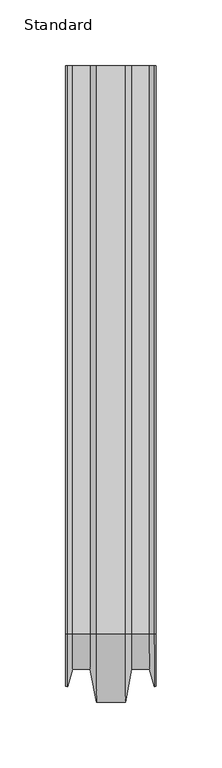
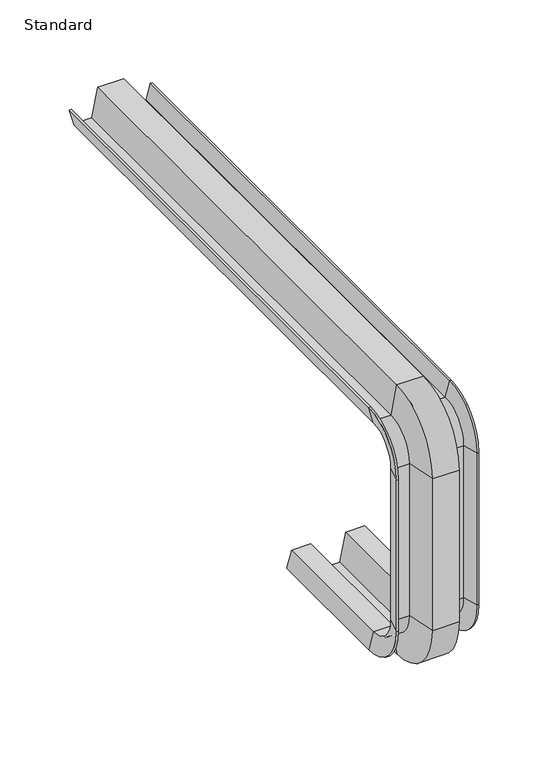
"""IFC4 building model written with IfcOpenShell, lengths in millimetres: electric appliance geometry, Bracket-C-Cablofil-Fas_Profile : Standard."""

from ifc_helpers import new_model, si_unit, frame, origin, place, context, project, spatial, polyline, circle_curve, source, transform, mapped, element, save
from ifc_brep_helpers import plane_surface, cylinder_surface, revolved_surface, advanced_brep


def standard_7210bdc4(model_context):
    return source(origin(), model_context, "Body", "AdvancedBrep", [
        advanced_brep(
        [(-29.35, -71.882, -185.258), (-32.9137243, -71.882, -198.558), (-34.362613, -71.882, -198.1697714), (-30.5009905, -71.882, -183.758), (-14.5100327, -71.882, -183.758), (-9.7600327, -71.882, -208.558), (9.7600327, -71.882, -208.558), (14.5100327, -71.882, -183.758), (30.5009905, -71.882, -183.758), (34.362613, -71.882, -198.1697714), (32.9137243, -71.882, -198.558), (29.35, -71.882, -185.258), (15.75, -71.882, -185.258), (11.0, -71.882, -210.058), (-11.0, -71.882, -210.058), (-15.75, -71.882, -185.258), (-29.35, -189.8600209, -185.258), (-32.9137243, -189.8600209, -198.558), (-34.362613, -189.8600209, -198.1697714), (-30.5009905, -189.8600209, -183.758), (-14.5100327, -189.8600209, -183.758), (-9.7600327, -189.8600209, -208.558), (9.7600327, -189.8600209, -208.558), (14.5100327, -189.8600209, -183.758), (30.5009905, -189.8600209, -183.758), (34.362613, -189.8600209, -198.1697714), (32.9137243, -189.8600209, -198.558), (29.35, -189.8600209, -185.258), (15.75, -189.8600209, -185.258), (11.0, -189.8600209, -210.058), (-11.0, -189.8600209, -210.058), (-15.75, -189.8600209, -185.258), (-32.9137243, -229.8, -158.6180209), (-29.35, -216.5, -158.6180209), (-34.362613, -229.4117714, -158.6180209), (-30.5009905, -215.0, -158.6180209), (-14.5100327, -215.0, -158.6180209), (-9.7600327, -239.8, -158.6180209), (9.7600327, -239.8, -158.6180209), (14.5100327, -215.0, -158.6180209), (30.5009905, -215.0, -158.6180209), (34.362613, -229.4117714, -158.6180209), (32.9137243, -229.8, -158.6180209), (29.35, -216.5, -158.6180209), (15.75, -216.5, -158.6180209), (11.0, -241.3, -158.6180209), (-11.0, -241.3, -158.6180209), (-15.75, -216.5, -158.6180209), (-29.35, -216.5, -25.1399791), (-32.9137243, -229.8, -25.1399791), (-34.362613, -229.4117714, -25.1399791), (-30.5009905, -215.0, -25.1399791), (-14.5100327, -215.0, -25.1399791), (-9.7600327, -239.8, -25.1399791), (9.7600327, -239.8, -25.1399791), (14.5100327, -215.0, -25.1399791), (30.5009905, -215.0, -25.1399791), (34.362613, -229.4117714, -25.1399791), (32.9137243, -229.8, -25.1399791), (29.35, -216.5, -25.1399791), (15.75, -216.5, -25.1399791), (11.0, -241.3, -25.1399791), (-11.0, -241.3, -25.1399791), (-15.75, -216.5, -25.1399791), (-32.9137243, -189.8600209, 14.8), (-29.35, -189.8600209, 1.5), (-34.362613, -189.8600209, 14.4117714), (-30.5009905, -189.8600209, 0.0), (-14.5100327, -189.8600209, 0.0), (-9.7600327, -189.8600209, 24.8), (9.7600327, -189.8600209, 24.8), (14.5100327, -189.8600209, 0.0), (30.5009905, -189.8600209, 0.0), (34.362613, -189.8600209, 14.4117714), (32.9137243, -189.8600209, 14.8), (29.35, -189.8600209, 1.5), (15.75, -189.8600209, 1.5), (11.0, -189.8600209, 26.3), (-11.0, -189.8600209, 26.3), (-15.75, -189.8600209, 1.5), (-29.35, 241.3, 1.5), (-15.75, 241.3, 1.5), (-11.0, 241.3, 26.3), (11.0, 241.3, 26.3), (15.75, 241.3, 1.5), (29.35, 241.3, 1.5), (32.9137243, 241.3, 14.8), (34.362613, 241.3, 14.4117714), (30.5009905, 241.3, 0.0), (14.5100327, 241.3, 0.0), (9.7600327, 241.3, 24.8), (-9.7600327, 241.3, 24.8), (-14.5100327, 241.3, 0.0), (-30.5009905, 241.3, 0.0), (-34.362613, 241.3, 14.4117714), (-32.9137243, 241.3, 14.8)],
        [
            (0, 1),
            (1, 2),
            (2, 3),
            (3, 4),
            (4, 5),
            (5, 6),
            (6, 7),
            (7, 8),
            (8, 9),
            (9, 10),
            (10, 11),
            (11, 12),
            (12, 13),
            (13, 14),
            (14, 15),
            (15, 0),
            (0, 16),
            (16, 17),
            (17, 1),
            (17, 18),
            (18, 2),
            (18, 19),
            (19, 3),
            (19, 20),
            (20, 4),
            (20, 21),
            (21, 5),
            (21, 22),
            (22, 6),
            (22, 23),
            (23, 7),
            (23, 24),
            (24, 8),
            (24, 25),
            (25, 9),
            (25, 26),
            (26, 10),
            (26, 27),
            (27, 11),
            (27, 28),
            (28, 12),
            (28, 29),
            (29, 13),
            (29, 30),
            (30, 14),
            (30, 31),
            (31, 15),
            (31, 16),
            (32, 17, circle_curve(frame((-32.9137243, -189.8600209, -158.6180209), z_axis=(1.0, 0.0, 0.0), x_axis=(0.0, 0.0, -1.0)), 39.9399791)),
            (16, 33, circle_curve(frame((-29.35, -189.8600209, -158.6180209), z_axis=(-1.0, 0.0, 0.0), x_axis=(0.0, 0.0, -1.0)), 26.6399791)),
            (33, 32),
            (34, 18, circle_curve(frame((-34.362613, -189.8600209, -158.6180209), z_axis=(1.0, 0.0, 0.0), x_axis=(0.0, 0.0, -1.0)), 39.5517505)),
            (32, 34),
            (35, 19, circle_curve(frame((-30.5009905, -189.8600209, -158.6180209), z_axis=(1.0, 0.0, 0.0), x_axis=(0.0, 0.0, -1.0)), 25.1399791)),
            (34, 35),
            (36, 20, circle_curve(frame((-14.5100327, -189.8600209, -158.6180209), z_axis=(1.0, 0.0, 0.0), x_axis=(0.0, 0.0, -1.0)), 25.1399791)),
            (35, 36),
            (37, 21, circle_curve(frame((-9.7600327, -189.8600209, -158.6180209), z_axis=(1.0, 0.0, 0.0), x_axis=(0.0, 0.0, -1.0)), 49.9399791)),
            (36, 37),
            (38, 22, circle_curve(frame((9.7600327, -189.8600209, -158.6180209), z_axis=(1.0, 0.0, 0.0), x_axis=(0.0, 0.0, -1.0)), 49.9399791)),
            (37, 38),
            (39, 23, circle_curve(frame((14.5100327, -189.8600209, -158.6180209), z_axis=(1.0, 0.0, 0.0), x_axis=(0.0, 0.0, -1.0)), 25.1399791)),
            (38, 39),
            (40, 24, circle_curve(frame((30.5009905, -189.8600209, -158.6180209), z_axis=(1.0, 0.0, 0.0), x_axis=(0.0, 0.0, -1.0)), 25.1399791)),
            (39, 40),
            (41, 25, circle_curve(frame((34.362613, -189.8600209, -158.6180209), z_axis=(1.0, 0.0, 0.0), x_axis=(0.0, 0.0, -1.0)), 39.5517505)),
            (40, 41),
            (42, 26, circle_curve(frame((32.9137243, -189.8600209, -158.6180209), z_axis=(1.0, 0.0, 0.0), x_axis=(0.0, 0.0, -1.0)), 39.9399791)),
            (41, 42),
            (43, 27, circle_curve(frame((29.35, -189.8600209, -158.6180209), z_axis=(1.0, 0.0, 0.0), x_axis=(0.0, 0.0, -1.0)), 26.6399791)),
            (42, 43),
            (44, 28, circle_curve(frame((15.75, -189.8600209, -158.6180209), z_axis=(1.0, 0.0, 0.0), x_axis=(0.0, 0.0, -1.0)), 26.6399791)),
            (43, 44),
            (45, 29, circle_curve(frame((11.0, -189.8600209, -158.6180209), z_axis=(1.0, 0.0, 0.0), x_axis=(0.0, 0.0, -1.0)), 51.4399791)),
            (44, 45),
            (46, 30, circle_curve(frame((-11.0, -189.8600209, -158.6180209), z_axis=(1.0, 0.0, 0.0), x_axis=(0.0, 0.0, -1.0)), 51.4399791)),
            (45, 46),
            (47, 31, circle_curve(frame((-15.75, -189.8600209, -158.6180209), z_axis=(1.0, 0.0, 0.0), x_axis=(0.0, 0.0, -1.0)), 26.6399791)),
            (46, 47),
            (47, 33),
            (33, 48),
            (48, 49),
            (49, 32),
            (49, 50),
            (50, 34),
            (50, 51),
            (51, 35),
            (51, 52),
            (52, 36),
            (52, 53),
            (53, 37),
            (53, 54),
            (54, 38),
            (54, 55),
            (55, 39),
            (55, 56),
            (56, 40),
            (56, 57),
            (57, 41),
            (57, 58),
            (58, 42),
            (58, 59),
            (59, 43),
            (59, 60),
            (60, 44),
            (60, 61),
            (61, 45),
            (61, 62),
            (62, 46),
            (62, 63),
            (63, 47),
            (63, 48),
            (64, 49, circle_curve(frame((-32.9137243, -189.8600209, -25.1399791), z_axis=(1.0, 0.0, 0.0), x_axis=(0.0, -1.0, 0.0)), 39.9399791)),
            (48, 65, circle_curve(frame((-29.35, -189.8600209, -25.1399791), z_axis=(-1.0, 0.0, 0.0), x_axis=(0.0, -1.0, 0.0)), 26.6399791)),
            (65, 64),
            (66, 50, circle_curve(frame((-34.362613, -189.8600209, -25.1399791), z_axis=(1.0, 0.0, 0.0), x_axis=(0.0, -1.0, 0.0)), 39.5517505)),
            (64, 66),
            (67, 51, circle_curve(frame((-30.5009905, -189.8600209, -25.1399791), z_axis=(1.0, 0.0, 0.0), x_axis=(0.0, -1.0, 0.0)), 25.1399791)),
            (66, 67),
            (68, 52, circle_curve(frame((-14.5100327, -189.8600209, -25.1399791), z_axis=(1.0, 0.0, 0.0), x_axis=(0.0, -1.0, 0.0)), 25.1399791)),
            (67, 68),
            (69, 53, circle_curve(frame((-9.7600327, -189.8600209, -25.1399791), z_axis=(1.0, 0.0, 0.0), x_axis=(0.0, -1.0, 0.0)), 49.9399791)),
            (68, 69),
            (70, 54, circle_curve(frame((9.7600327, -189.8600209, -25.1399791), z_axis=(1.0, 0.0, 0.0), x_axis=(0.0, -1.0, 0.0)), 49.9399791)),
            (69, 70),
            (71, 55, circle_curve(frame((14.5100327, -189.8600209, -25.1399791), z_axis=(1.0, 0.0, 0.0), x_axis=(0.0, -1.0, 0.0)), 25.1399791)),
            (70, 71),
            (72, 56, circle_curve(frame((30.5009905, -189.8600209, -25.1399791), z_axis=(1.0, 0.0, 0.0), x_axis=(0.0, -1.0, 0.0)), 25.1399791)),
            (71, 72),
            (73, 57, circle_curve(frame((34.362613, -189.8600209, -25.1399791), z_axis=(1.0, 0.0, 0.0), x_axis=(0.0, -1.0, 0.0)), 39.5517505)),
            (72, 73),
            (74, 58, circle_curve(frame((32.9137243, -189.8600209, -25.1399791), z_axis=(1.0, 0.0, 0.0), x_axis=(0.0, -1.0, 0.0)), 39.9399791)),
            (73, 74),
            (75, 59, circle_curve(frame((29.35, -189.8600209, -25.1399791), z_axis=(1.0, 0.0, 0.0), x_axis=(0.0, -1.0, 0.0)), 26.6399791)),
            (74, 75),
            (76, 60, circle_curve(frame((15.75, -189.8600209, -25.1399791), z_axis=(1.0, 0.0, 0.0), x_axis=(0.0, -1.0, 0.0)), 26.6399791)),
            (75, 76),
            (77, 61, circle_curve(frame((11.0, -189.8600209, -25.1399791), z_axis=(1.0, 0.0, 0.0), x_axis=(0.0, -1.0, 0.0)), 51.4399791)),
            (76, 77),
            (78, 62, circle_curve(frame((-11.0, -189.8600209, -25.1399791), z_axis=(1.0, 0.0, 0.0), x_axis=(0.0, -1.0, 0.0)), 51.4399791)),
            (77, 78),
            (79, 63, circle_curve(frame((-15.75, -189.8600209, -25.1399791), z_axis=(1.0, 0.0, 0.0), x_axis=(0.0, -1.0, 0.0)), 26.6399791)),
            (78, 79),
            (79, 65),
            (80, 81),
            (81, 82),
            (82, 83),
            (83, 84),
            (84, 85),
            (85, 86),
            (86, 87),
            (87, 88),
            (88, 89),
            (89, 90),
            (90, 91),
            (91, 92),
            (92, 93),
            (93, 94),
            (94, 95),
            (95, 80),
            (65, 80),
            (95, 64),
            (94, 66),
            (93, 67),
            (92, 68),
            (91, 69),
            (90, 70),
            (89, 71),
            (88, 72),
            (87, 73),
            (86, 74),
            (85, 75),
            (84, 76),
            (83, 77),
            (82, 78),
            (81, 79),
        ],
        [
            plane_surface(frame((0.0, -71.882, -210.058), z_axis=(0.0, 1.0, 0.0), x_axis=(1.0, 0.0, 0.0))),
            plane_surface(frame((-29.35, -71.882, -185.258), z_axis=(0.9659258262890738, 0.0, -0.25881904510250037), x_axis=(0.0, -1.0, 0.0))),
            plane_surface(frame((-32.9137243, -71.882, -198.558), z_axis=(-0.25881904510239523, 0.0, -0.965925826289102), x_axis=(0.0, -1.0, 0.0))),
            plane_surface(frame((-34.362613, -71.882, -198.1697714), z_axis=(-0.965925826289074, 0.0, 0.2588190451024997), x_axis=(0.0, -1.0, 0.0))),
            plane_surface(frame((-30.5009905, -71.882, -183.758), z_axis=(0.0, 0.0, 1.0), x_axis=(0.0, -1.0, 0.0))),
            plane_surface(frame((-14.5100327, -71.882, -183.758), z_axis=(0.9821474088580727, 0.0, 0.18811291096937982), x_axis=(0.0, -1.0, 0.0))),
            plane_surface(frame((-9.7600327, -71.882, -208.558), z_axis=(0.0, 0.0, 1.0), x_axis=(0.0, -1.0, 0.0))),
            plane_surface(frame((9.7600327, -71.882, -208.558), z_axis=(-0.9821474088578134, 0.0, 0.18811291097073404), x_axis=(0.0, -1.0, 0.0))),
            plane_surface(frame((14.5100327, -71.882, -183.758), z_axis=(0.0, 0.0, 1.0), x_axis=(0.0, -1.0, 0.0))),
            plane_surface(frame((30.5009905, -71.882, -183.758), z_axis=(0.96592582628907, 0.0, 0.2588190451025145), x_axis=(0.0, -1.0, 0.0))),
            plane_surface(frame((34.362613, -71.882, -198.1697714), z_axis=(0.2588190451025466, 0.0, -0.9659258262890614), x_axis=(0.0, -1.0, 0.0))),
            plane_surface(frame((32.9137243, -71.882, -198.558), z_axis=(-0.965925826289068, 0.0, -0.2588190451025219), x_axis=(0.0, -1.0, 0.0))),
            plane_surface(frame((29.35, -71.882, -185.258), z_axis=(0.0, 0.0, -1.0), x_axis=(0.0, -1.0, 0.0))),
            plane_surface(frame((15.75, -71.882, -185.258), z_axis=(0.98214740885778, 0.0, -0.18811291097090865), x_axis=(0.0, -1.0, 0.0))),
            plane_surface(frame((11.0, -71.882, -210.058), z_axis=(0.0, 0.0, -1.0), x_axis=(0.0, -1.0, 0.0))),
            plane_surface(frame((-11.0, -71.882, -210.058), z_axis=(-0.9821474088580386, 0.0, -0.18811291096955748), x_axis=(0.0, -1.0, 0.0))),
            plane_surface(frame((-15.75, -71.882, -185.258), z_axis=(0.0, 0.0, -1.0), x_axis=(0.0, -1.0, 0.0))),
            revolved_surface(polyline([(-29.35, -189.8600209, -185.258), (-32.9137243, -189.8600209, -198.558)]), (0.0, -189.8600209, -158.6180209), (-1.0, 0.0, 0.0)),
            revolved_surface(polyline([(-32.9137243, -189.8600209, -198.558), (-34.362613, -189.8600209, -198.1697714)]), (0.0, -189.8600209, -158.6180209), (-1.0, 0.0, 0.0)),
            revolved_surface(polyline([(-34.362613, -189.8600209, -198.1697714), (-30.5009905, -189.8600209, -183.758)]), (0.0, -189.8600209, -158.6180209), (-1.0, 0.0, 0.0)),
            revolved_surface(polyline([(-30.5009905, -189.8600209, -183.758), (-14.5100327, -189.8600209, -183.758)]), (0.0, -189.8600209, -158.6180209), (-1.0, 0.0, 0.0)),
            revolved_surface(polyline([(-14.5100327, -189.8600209, -183.758), (-9.7600327, -189.8600209, -208.558)]), (0.0, -189.8600209, -158.6180209), (-1.0, 0.0, 0.0)),
            revolved_surface(polyline([(-9.7600327, -189.8600209, -208.558), (9.7600327, -189.8600209, -208.558)]), (0.0, -189.8600209, -158.6180209), (-1.0, 0.0, 0.0)),
            revolved_surface(polyline([(9.7600327, -189.8600209, -208.558), (14.5100327, -189.8600209, -183.758)]), (0.0, -189.8600209, -158.6180209), (-1.0, 0.0, 0.0)),
            revolved_surface(polyline([(14.5100327, -189.8600209, -183.758), (30.5009905, -189.8600209, -183.758)]), (0.0, -189.8600209, -158.6180209), (-1.0, 0.0, 0.0)),
            revolved_surface(polyline([(30.5009905, -189.8600209, -183.758), (34.362613, -189.8600209, -198.1697714)]), (0.0, -189.8600209, -158.6180209), (-1.0, 0.0, 0.0)),
            revolved_surface(polyline([(34.362613, -189.8600209, -198.1697714), (32.9137243, -189.8600209, -198.558)]), (0.0, -189.8600209, -158.6180209), (-1.0, 0.0, 0.0)),
            revolved_surface(polyline([(32.9137243, -189.8600209, -198.558), (29.35, -189.8600209, -185.258)]), (0.0, -189.8600209, -158.6180209), (-1.0, 0.0, 0.0)),
            cylinder_surface(frame((0.0, -189.8600209, -158.6180209), z_axis=(-1.0, 0.0, 0.0), x_axis=(0.0, 0.0, -1.0)), 26.6399791),
            revolved_surface(polyline([(15.75, -189.8600209, -185.258), (11.0, -189.8600209, -210.058)]), (0.0, -189.8600209, -158.6180209), (-1.0, 0.0, 0.0)),
            cylinder_surface(frame((0.0, -189.8600209, -158.6180209), z_axis=(-1.0, 0.0, 0.0), x_axis=(0.0, 0.0, -1.0)), 51.4399791),
            revolved_surface(polyline([(-11.0, -189.8600209, -210.058), (-15.75, -189.8600209, -185.258)]), (0.0, -189.8600209, -158.6180209), (-1.0, 0.0, 0.0)),
            plane_surface(frame((-29.35, -216.5, -158.6180209), z_axis=(0.9659258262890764, -0.25881904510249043, 0.0), x_axis=(0.0, 0.0, 1.0))),
            plane_surface(frame((-32.9137243, -229.8, -158.6180209), z_axis=(-0.2588190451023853, -0.9659258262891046, 0.0), x_axis=(0.0, 0.0, 1.0))),
            plane_surface(frame((-34.362613, -229.4117714, -158.6180209), z_axis=(-0.9659258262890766, 0.25881904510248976, 0.0), x_axis=(0.0, 0.0, 1.0))),
            plane_surface(frame((-30.5009905, -215.0, -158.6180209), z_axis=(0.0, 1.0, 0.0), x_axis=(0.0, 0.0, 1.0))),
            plane_surface(frame((-14.5100327, -215.0, -158.6180209), z_axis=(0.9821474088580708, 0.18811291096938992, 0.0), x_axis=(0.0, 0.0, 1.0))),
            plane_surface(frame((-9.7600327, -239.8, -158.6180209), z_axis=(0.0, 1.0, 0.0), x_axis=(0.0, 0.0, 1.0))),
            plane_surface(frame((9.7600327, -239.8, -158.6180209), z_axis=(-0.9821474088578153, 0.18811291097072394, 0.0), x_axis=(0.0, 0.0, 1.0))),
            plane_surface(frame((14.5100327, -215.0, -158.6180209), z_axis=(0.0, 1.0, 0.0), x_axis=(0.0, 0.0, 1.0))),
            plane_surface(frame((30.5009905, -215.0, -158.6180209), z_axis=(0.9659258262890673, 0.25881904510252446, 0.0), x_axis=(0.0, 0.0, 1.0))),
            plane_surface(frame((34.362613, -229.4117714, -158.6180209), z_axis=(0.25881904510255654, -0.9659258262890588, 0.0), x_axis=(0.0, 0.0, 1.0))),
            plane_surface(frame((32.9137243, -229.8, -158.6180209), z_axis=(-0.9659258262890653, -0.25881904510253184, 0.0), x_axis=(0.0, 0.0, 1.0))),
            plane_surface(frame((29.35, -216.5, -158.6180209), z_axis=(0.0, -1.0, 0.0), x_axis=(0.0, 0.0, 1.0))),
            plane_surface(frame((15.75, -216.5, -158.6180209), z_axis=(0.9821474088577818, -0.18811291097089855, 0.0), x_axis=(0.0, 0.0, 1.0))),
            plane_surface(frame((11.0, -241.3, -158.6180209), z_axis=(0.0, -1.0, 0.0), x_axis=(0.0, 0.0, 1.0))),
            plane_surface(frame((-11.0, -241.3, -158.6180209), z_axis=(-0.9821474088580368, -0.1881129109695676, 0.0), x_axis=(0.0, 0.0, 1.0))),
            plane_surface(frame((-15.75, -216.5, -158.6180209), z_axis=(0.0, -1.0, 0.0), x_axis=(0.0, 0.0, 1.0))),
            revolved_surface(polyline([(-29.35, -216.5, -25.1399791), (-32.9137243, -229.8, -25.1399791)]), (0.0, -189.8600209, -25.1399791), (-1.0, 0.0, 0.0)),
            revolved_surface(polyline([(-32.9137243, -229.8, -25.1399791), (-34.362613, -229.4117714, -25.1399791)]), (0.0, -189.8600209, -25.1399791), (-1.0, 0.0, 0.0)),
            revolved_surface(polyline([(-34.362613, -229.4117714, -25.1399791), (-30.5009905, -215.0, -25.1399791)]), (0.0, -189.8600209, -25.1399791), (-1.0, 0.0, 0.0)),
            revolved_surface(polyline([(-30.5009905, -215.0, -25.1399791), (-14.5100327, -215.0, -25.1399791)]), (0.0, -189.8600209, -25.1399791), (-1.0, 0.0, 0.0)),
            revolved_surface(polyline([(-14.5100327, -215.0, -25.1399791), (-9.7600327, -239.8, -25.1399791)]), (0.0, -189.8600209, -25.1399791), (-1.0, 0.0, 0.0)),
            revolved_surface(polyline([(-9.7600327, -239.8, -25.1399791), (9.7600327, -239.8, -25.1399791)]), (0.0, -189.8600209, -25.1399791), (-1.0, 0.0, 0.0)),
            revolved_surface(polyline([(9.7600327, -239.8, -25.1399791), (14.5100327, -215.0, -25.1399791)]), (0.0, -189.8600209, -25.1399791), (-1.0, 0.0, 0.0)),
            revolved_surface(polyline([(14.5100327, -215.0, -25.1399791), (30.5009905, -215.0, -25.1399791)]), (0.0, -189.8600209, -25.1399791), (-1.0, 0.0, 0.0)),
            revolved_surface(polyline([(30.5009905, -215.0, -25.1399791), (34.362613, -229.4117714, -25.1399791)]), (0.0, -189.8600209, -25.1399791), (-1.0, 0.0, 0.0)),
            revolved_surface(polyline([(34.362613, -229.4117714, -25.1399791), (32.9137243, -229.8, -25.1399791)]), (0.0, -189.8600209, -25.1399791), (-1.0, 0.0, 0.0)),
            revolved_surface(polyline([(32.9137243, -229.8, -25.1399791), (29.35, -216.5, -25.1399791)]), (0.0, -189.8600209, -25.1399791), (-1.0, 0.0, 0.0)),
            cylinder_surface(frame((0.0, -189.8600209, -25.1399791), z_axis=(-1.0, 0.0, 0.0), x_axis=(0.0, -1.0, 0.0)), 26.6399791),
            revolved_surface(polyline([(15.75, -216.5, -25.1399791), (11.0, -241.3, -25.1399791)]), (0.0, -189.8600209, -25.1399791), (-1.0, 0.0, 0.0)),
            cylinder_surface(frame((0.0, -189.8600209, -25.1399791), z_axis=(-1.0, 0.0, 0.0), x_axis=(0.0, -1.0, 0.0)), 51.4399791),
            revolved_surface(polyline([(-11.0, -241.3, -25.1399791), (-15.75, -216.5, -25.1399791)]), (0.0, -189.8600209, -25.1399791), (-1.0, 0.0, 0.0)),
            plane_surface(frame((0.0, 241.3, 26.3), z_axis=(0.0, 1.0, 0.0), x_axis=(1.0, 0.0, 0.0))),
            plane_surface(frame((-29.35, -189.8600209, 1.5), z_axis=(0.9659258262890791, 0.0, 0.2588190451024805), x_axis=(0.0, 1.0, 0.0))),
            plane_surface(frame((-32.9137243, -189.8600209, 14.8), z_axis=(-0.25881904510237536, 0.0, 0.9659258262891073), x_axis=(0.0, 1.0, 0.0))),
            plane_surface(frame((-34.362613, -189.8600209, 14.4117714), z_axis=(-0.9659258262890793, 0.0, -0.25881904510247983), x_axis=(0.0, 1.0, 0.0))),
            plane_surface(frame((-30.5009905, -189.8600209, 0.0), z_axis=(0.0, 0.0, -1.0), x_axis=(0.0, 1.0, 0.0))),
            plane_surface(frame((-14.5100327, -189.8600209, 0.0), z_axis=(0.982147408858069, 0.0, -0.18811291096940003), x_axis=(0.0, 1.0, 0.0))),
            plane_surface(frame((-9.7600327, -189.8600209, 24.8), z_axis=(0.0, 0.0, -1.0), x_axis=(0.0, 1.0, 0.0))),
            plane_surface(frame((9.7600327, -189.8600209, 24.8), z_axis=(-0.9821474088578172, 0.0, -0.18811291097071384), x_axis=(0.0, 1.0, 0.0))),
            plane_surface(frame((14.5100327, -189.8600209, 0.0), z_axis=(0.0, 0.0, -1.0), x_axis=(0.0, 1.0, 0.0))),
            plane_surface(frame((30.5009905, -189.8600209, 0.0), z_axis=(0.9659258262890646, 0.0, -0.2588190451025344), x_axis=(0.0, 1.0, 0.0))),
            plane_surface(frame((34.362613, -189.8600209, 14.4117714), z_axis=(0.2588190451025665, 0.0, 0.9659258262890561), x_axis=(0.0, 1.0, 0.0))),
            plane_surface(frame((32.9137243, -189.8600209, 14.8), z_axis=(-0.9659258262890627, 0.0, 0.2588190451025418), x_axis=(0.0, 1.0, 0.0))),
            plane_surface(frame((29.35, -189.8600209, 1.5), z_axis=(0.0, 0.0, 1.0), x_axis=(0.0, 1.0, 0.0))),
            plane_surface(frame((15.75, -189.8600209, 1.5), z_axis=(0.9821474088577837, 0.0, 0.18811291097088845), x_axis=(0.0, 1.0, 0.0))),
            plane_surface(frame((11.0, -189.8600209, 26.3), z_axis=(0.0, 0.0, 1.0), x_axis=(0.0, 1.0, 0.0))),
            plane_surface(frame((-11.0, -189.8600209, 26.3), z_axis=(-0.9821474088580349, 0.0, 0.1881129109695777), x_axis=(0.0, 1.0, 0.0))),
            plane_surface(frame((-15.75, -189.8600209, 1.5), z_axis=(0.0, 0.0, 1.0), x_axis=(0.0, 1.0, 0.0))),
        ],
        [
            (0, [[1, 2, 3, 4, 5, 6, 7, 8, 9, 10, 11, 12, 13, 14, 15, 16]]),
            (1, [[-1, 17, 18, 19]]),
            (2, [[-2, -19, 20, 21]]),
            (3, [[-3, -21, 22, 23]]),
            (4, [[-4, -23, 24, 25]]),
            (5, [[-5, -25, 26, 27]]),
            (6, [[-6, -27, 28, 29]]),
            (7, [[-7, -29, 30, 31]]),
            (8, [[-8, -31, 32, 33]]),
            (9, [[-9, -33, 34, 35]]),
            (10, [[-10, -35, 36, 37]]),
            (11, [[-11, -37, 38, 39]]),
            (12, [[-12, -39, 40, 41]]),
            (13, [[-13, -41, 42, 43]]),
            (14, [[-14, -43, 44, 45]]),
            (15, [[-15, -45, 46, 47]]),
            (16, [[-16, -47, 48, -17]]),
            (17, [[49, -18, 50, 51]]),
            (18, [[52, -20, -49, 53]]),
            (19, [[54, -22, -52, 55]]),
            (20, [[56, -24, -54, 57]]),
            (21, [[58, -26, -56, 59]]),
            (22, [[60, -28, -58, 61]]),
            (23, [[62, -30, -60, 63]]),
            (24, [[64, -32, -62, 65]]),
            (25, [[66, -34, -64, 67]]),
            (26, [[68, -36, -66, 69]]),
            (27, [[70, -38, -68, 71]]),
            (28, [[72, -40, -70, 73]]),
            (29, [[74, -42, -72, 75]]),
            (30, [[76, -44, -74, 77]]),
            (31, [[78, -46, -76, 79]]),
            (28, [[-50, -48, -78, 80]]),
            (32, [[-51, 81, 82, 83]]),
            (33, [[-53, -83, 84, 85]]),
            (34, [[-55, -85, 86, 87]]),
            (35, [[-57, -87, 88, 89]]),
            (36, [[-59, -89, 90, 91]]),
            (37, [[-61, -91, 92, 93]]),
            (38, [[-63, -93, 94, 95]]),
            (39, [[-65, -95, 96, 97]]),
            (40, [[-67, -97, 98, 99]]),
            (41, [[-69, -99, 100, 101]]),
            (42, [[-71, -101, 102, 103]]),
            (43, [[-73, -103, 104, 105]]),
            (44, [[-75, -105, 106, 107]]),
            (45, [[-77, -107, 108, 109]]),
            (46, [[-79, -109, 110, 111]]),
            (47, [[-80, -111, 112, -81]]),
            (48, [[113, -82, 114, 115]]),
            (49, [[116, -84, -113, 117]]),
            (50, [[118, -86, -116, 119]]),
            (51, [[120, -88, -118, 121]]),
            (52, [[122, -90, -120, 123]]),
            (53, [[124, -92, -122, 125]]),
            (54, [[126, -94, -124, 127]]),
            (55, [[128, -96, -126, 129]]),
            (56, [[130, -98, -128, 131]]),
            (57, [[132, -100, -130, 133]]),
            (58, [[134, -102, -132, 135]]),
            (59, [[136, -104, -134, 137]]),
            (60, [[138, -106, -136, 139]]),
            (61, [[140, -108, -138, 141]]),
            (62, [[142, -110, -140, 143]]),
            (59, [[-114, -112, -142, 144]]),
            (63, [[145, 146, 147, 148, 149, 150, 151, 152, 153, 154, 155, 156, 157, 158, 159, 160]]),
            (64, [[-115, 161, -160, 162]]),
            (65, [[-117, -162, -159, 163]]),
            (66, [[-119, -163, -158, 164]]),
            (67, [[-121, -164, -157, 165]]),
            (68, [[-123, -165, -156, 166]]),
            (69, [[-125, -166, -155, 167]]),
            (70, [[-127, -167, -154, 168]]),
            (71, [[-129, -168, -153, 169]]),
            (72, [[-131, -169, -152, 170]]),
            (73, [[-133, -170, -151, 171]]),
            (74, [[-135, -171, -150, 172]]),
            (75, [[-137, -172, -149, 173]]),
            (76, [[-139, -173, -148, 174]]),
            (77, [[-141, -174, -147, 175]]),
            (78, [[-143, -175, -146, 176]]),
            (79, [[-144, -176, -145, -161]]),
        ],
    ),
    ])


if __name__ == "__main__":
    model = new_model("IFC4")
    model_context = context("Model", 3, world=origin())
    ifc_project = project(units=[si_unit("LENGTHUNIT", "METRE", prefix="MILLI")], contexts=[model_context])
    site = spatial("IfcSite", under=ifc_project)
    building = spatial("IfcBuilding", under=site)
    placement = place(None, origin())
    standard_shape = standard_7210bdc4(model_context)
    element("IfcElectricAppliance", 1, ObjectType="Bracket-C-Cablofil-Fas_Profile : Standard", at=placement, inside=building, context=model_context, shape_type="MappedRepresentation", body=[
        mapped(standard_shape, transform((0.0, 0.0, 0.0), x_axis=(1.0, 0.0, 0.0), y_axis=(0.0, 1.0, 0.0), z_axis=(0.0, 0.0, 1.0))),
    ])
    save(model, "model.ifc")
